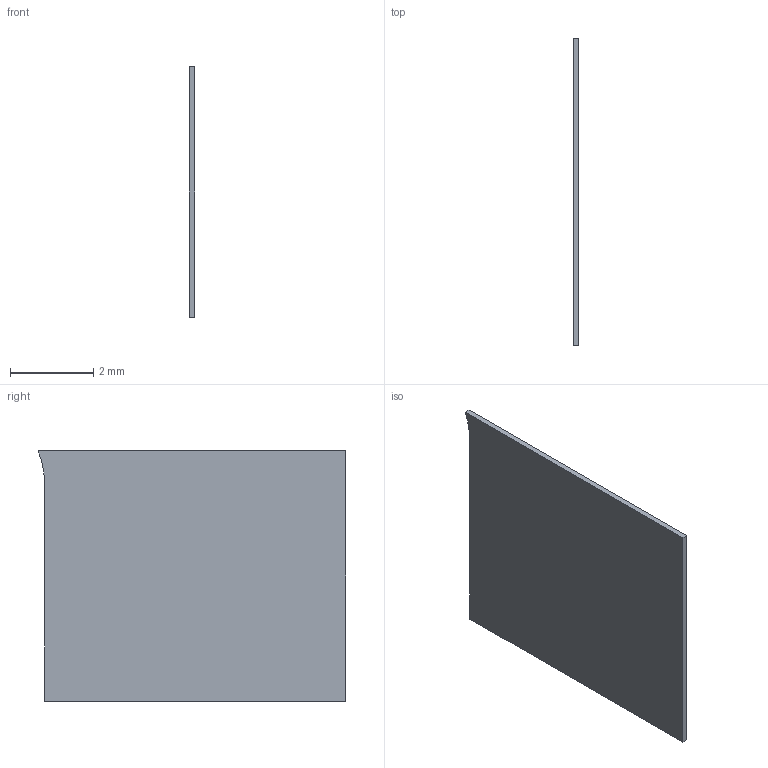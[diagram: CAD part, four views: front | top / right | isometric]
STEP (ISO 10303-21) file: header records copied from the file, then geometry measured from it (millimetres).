
FILE_DESCRIPTION(('Open CASCADE Model'),'2;1');
FILE_NAME('front_grip_PSA_patch_0_13_1','2026-09-08T13:43:18',('Author') ,('Open CASCADE'),'Open CASCADE STEP processor 7.8','build123d', 'Unknown');
FILE_SCHEMA(('AUTOMOTIVE_DESIGN { 1 0 10303 214 1 1 1 1 }'));
Length unit declared in the file: millimetre
Products named in the file (2): =>[0:1:1:2]; front_grip_PSA_patch_0_13_1
Assembly tree (1 placements, depth 2):
  =>[0:1:1:2]
    front_grip_PSA_patch_0_13_1
Bounding box: 0.13 x 7.38 x 6 mm (x, y, z)
Volume: 5.6 mm3; surface area: 90.2 mm2
Topology: 1 solids, 1 shells, 7 faces, 15 edges, 10 vertices
Faces by surface type: plane 6, cylinder 1
Entity records: 419 total; most frequent: CARTESIAN_POINT 77, DIRECTION 62, LINE 40, VECTOR 40, ORIENTED_EDGE 30, PCURVE 30, DEFINITIONAL_REPRESENTATION 30, EDGE_CURVE 15
